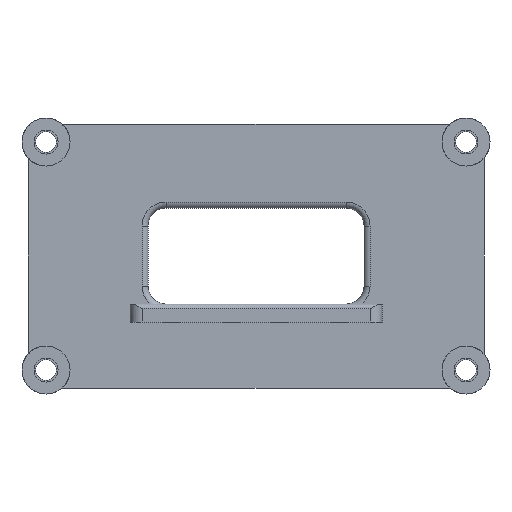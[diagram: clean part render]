
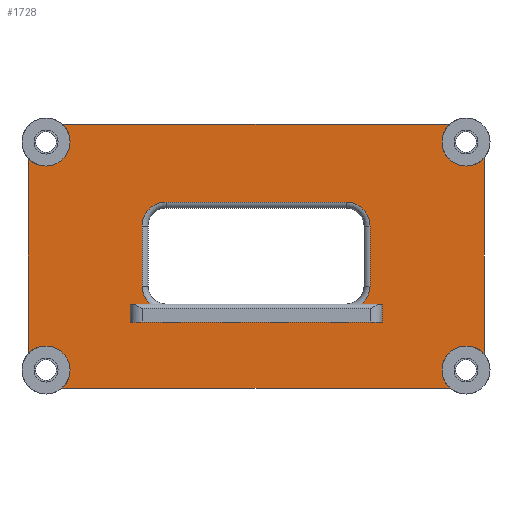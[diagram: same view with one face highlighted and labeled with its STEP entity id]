
A CAD part, front view. The second image highlights one B-rep face of the part: STEP entity #1728.
In plain terms, the highlighted planar face has unit normal (0, -1, 0).
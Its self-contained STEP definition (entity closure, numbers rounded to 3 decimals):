
#31=FACE_BOUND('',#341,.T.);
#82=CIRCLE('',#1876,4.);
#83=CIRCLE('',#1877,4.);
#84=CIRCLE('',#1878,4.);
#85=CIRCLE('',#1879,4.);
#86=CIRCLE('',#1880,4.);
#87=CIRCLE('',#1881,4.);
#88=CIRCLE('',#1882,4.);
#89=CIRCLE('',#1883,4.);
#90=CIRCLE('',#1884,4.);
#91=CIRCLE('',#1885,4.);
#173=PLANE('',#1875);
#235=FACE_OUTER_BOUND('',#340,.T.);
#340=EDGE_LOOP('',(#1366,#1367,#1368,#1369,#1370,#1371,#1372,#1373,#1374,
#1375));
#341=EDGE_LOOP('',(#1376,#1377,#1378,#1379,#1380,#1381,#1382,#1383,#1384,
#1385,#1386,#1387));
#415=LINE('',#2586,#561);
#419=LINE('',#2604,#565);
#489=LINE('',#2814,#635);
#492=LINE('',#2819,#638);
#494=LINE('',#2823,#640);
#495=LINE('',#2831,#641);
#496=LINE('',#2835,#642);
#497=LINE('',#2839,#643);
#498=LINE('',#2844,#644);
#499=LINE('',#2848,#645);
#500=LINE('',#2852,#646);
#501=LINE('',#2856,#647);
#561=VECTOR('',#2013,10.);
#565=VECTOR('',#2017,10.);
#635=VECTOR('',#2227,10.);
#638=VECTOR('',#2232,10.);
#640=VECTOR('',#2238,10.);
#641=VECTOR('',#2245,10.);
#642=VECTOR('',#2248,10.);
#643=VECTOR('',#2251,10.);
#644=VECTOR('',#2256,10.);
#645=VECTOR('',#2259,10.);
#646=VECTOR('',#2262,10.);
#647=VECTOR('',#2265,10.);
#713=VERTEX_POINT('',#2583);
#714=VERTEX_POINT('',#2585);
#719=VERTEX_POINT('',#2598);
#720=VERTEX_POINT('',#2603);
#790=VERTEX_POINT('',#2813);
#791=VERTEX_POINT('',#2817);
#792=VERTEX_POINT('',#2825);
#793=VERTEX_POINT('',#2826);
#794=VERTEX_POINT('',#2828);
#795=VERTEX_POINT('',#2830);
#796=VERTEX_POINT('',#2832);
#797=VERTEX_POINT('',#2834);
#798=VERTEX_POINT('',#2836);
#799=VERTEX_POINT('',#2838);
#800=VERTEX_POINT('',#2840);
#801=VERTEX_POINT('',#2842);
#802=VERTEX_POINT('',#2845);
#803=VERTEX_POINT('',#2847);
#804=VERTEX_POINT('',#2849);
#805=VERTEX_POINT('',#2851);
#806=VERTEX_POINT('',#2853);
#807=VERTEX_POINT('',#2855);
#880=EDGE_CURVE('',#714,#713,#415,.T.);
#886=EDGE_CURVE('',#720,#719,#419,.T.);
#991=EDGE_CURVE('',#790,#720,#489,.T.);
#994=EDGE_CURVE('',#713,#791,#492,.T.);
#996=EDGE_CURVE('',#791,#790,#494,.T.);
#997=EDGE_CURVE('',#792,#793,#82,.T.);
#998=EDGE_CURVE('',#793,#794,#83,.T.);
#999=EDGE_CURVE('',#795,#794,#495,.T.);
#1000=EDGE_CURVE('',#795,#796,#84,.T.);
#1001=EDGE_CURVE('',#797,#796,#496,.T.);
#1002=EDGE_CURVE('',#797,#798,#85,.T.);
#1003=EDGE_CURVE('',#799,#798,#497,.T.);
#1004=EDGE_CURVE('',#799,#800,#86,.T.);
#1005=EDGE_CURVE('',#800,#801,#87,.T.);
#1006=EDGE_CURVE('',#792,#801,#498,.T.);
#1007=EDGE_CURVE('',#802,#719,#88,.T.);
#1008=EDGE_CURVE('',#803,#802,#499,.T.);
#1009=EDGE_CURVE('',#804,#803,#89,.T.);
#1010=EDGE_CURVE('',#805,#804,#500,.T.);
#1011=EDGE_CURVE('',#806,#805,#90,.T.);
#1012=EDGE_CURVE('',#807,#806,#501,.T.);
#1013=EDGE_CURVE('',#714,#807,#91,.T.);
#1366=ORIENTED_EDGE('',*,*,#997,.T.);
#1367=ORIENTED_EDGE('',*,*,#998,.T.);
#1368=ORIENTED_EDGE('',*,*,#999,.F.);
#1369=ORIENTED_EDGE('',*,*,#1000,.T.);
#1370=ORIENTED_EDGE('',*,*,#1001,.F.);
#1371=ORIENTED_EDGE('',*,*,#1002,.T.);
#1372=ORIENTED_EDGE('',*,*,#1003,.F.);
#1373=ORIENTED_EDGE('',*,*,#1004,.T.);
#1374=ORIENTED_EDGE('',*,*,#1005,.T.);
#1375=ORIENTED_EDGE('',*,*,#1006,.F.);
#1376=ORIENTED_EDGE('',*,*,#880,.T.);
#1377=ORIENTED_EDGE('',*,*,#994,.T.);
#1378=ORIENTED_EDGE('',*,*,#996,.T.);
#1379=ORIENTED_EDGE('',*,*,#991,.T.);
#1380=ORIENTED_EDGE('',*,*,#886,.T.);
#1381=ORIENTED_EDGE('',*,*,#1007,.F.);
#1382=ORIENTED_EDGE('',*,*,#1008,.F.);
#1383=ORIENTED_EDGE('',*,*,#1009,.F.);
#1384=ORIENTED_EDGE('',*,*,#1010,.F.);
#1385=ORIENTED_EDGE('',*,*,#1011,.F.);
#1386=ORIENTED_EDGE('',*,*,#1012,.F.);
#1387=ORIENTED_EDGE('',*,*,#1013,.F.);
#1728=ADVANCED_FACE('',(#235,#31),#173,.F.);
#1875=AXIS2_PLACEMENT_3D('',#2824,#2239,#2240);
#1876=AXIS2_PLACEMENT_3D('',#2827,#2241,#2242);
#1877=AXIS2_PLACEMENT_3D('',#2829,#2243,#2244);
#1878=AXIS2_PLACEMENT_3D('',#2833,#2246,#2247);
#1879=AXIS2_PLACEMENT_3D('',#2837,#2249,#2250);
#1880=AXIS2_PLACEMENT_3D('',#2841,#2252,#2253);
#1881=AXIS2_PLACEMENT_3D('',#2843,#2254,#2255);
#1882=AXIS2_PLACEMENT_3D('',#2846,#2257,#2258);
#1883=AXIS2_PLACEMENT_3D('',#2850,#2260,#2261);
#1884=AXIS2_PLACEMENT_3D('',#2854,#2263,#2264);
#1885=AXIS2_PLACEMENT_3D('',#2857,#2266,#2267);
#2013=DIRECTION('',(1.,0.,0.));
#2017=DIRECTION('',(1.,0.,0.));
#2227=DIRECTION('',(0.,0.,1.));
#2232=DIRECTION('',(0.,0.,-1.));
#2238=DIRECTION('',(-1.,0.,0.));
#2239=DIRECTION('center_axis',(0.,1.,0.));
#2240=DIRECTION('ref_axis',(1.,0.,0.));
#2241=DIRECTION('center_axis',(0.,1.,0.));
#2242=DIRECTION('ref_axis',(1.,0.,0.));
#2243=DIRECTION('center_axis',(0.,1.,0.));
#2244=DIRECTION('ref_axis',(1.,0.,0.));
#2245=DIRECTION('',(1.,0.,0.));
#2246=DIRECTION('center_axis',(0.,1.,0.));
#2247=DIRECTION('ref_axis',(1.,0.,0.));
#2248=DIRECTION('',(0.,0.,1.));
#2249=DIRECTION('center_axis',(0.,1.,0.));
#2250=DIRECTION('ref_axis',(1.,0.,0.));
#2251=DIRECTION('',(-1.,0.,0.));
#2252=DIRECTION('center_axis',(0.,1.,0.));
#2253=DIRECTION('ref_axis',(1.,0.,0.));
#2254=DIRECTION('center_axis',(0.,1.,0.));
#2255=DIRECTION('ref_axis',(1.,0.,0.));
#2256=DIRECTION('',(0.,0.,-1.));
#2257=DIRECTION('center_axis',(0.,-1.,0.));
#2258=DIRECTION('ref_axis',(-0.707,0.,-0.707));
#2259=DIRECTION('',(0.,0.,-1.));
#2260=DIRECTION('center_axis',(0.,-1.,0.));
#2261=DIRECTION('ref_axis',(-0.707,0.,0.707));
#2262=DIRECTION('',(-1.,0.,0.));
#2263=DIRECTION('center_axis',(0.,-1.,0.));
#2264=DIRECTION('ref_axis',(0.707,0.,0.707));
#2265=DIRECTION('',(0.,0.,1.));
#2266=DIRECTION('center_axis',(0.,-1.,0.));
#2267=DIRECTION('ref_axis',(0.707,0.,-0.707));
#2583=CARTESIAN_POINT('',(68.,100.,26.));
#2585=CARTESIAN_POINT('',(64.646,100.,26.));
#2586=CARTESIAN_POINT('',(47.,100.,26.));
#2598=CARTESIAN_POINT('',(29.354,100.,26.));
#2603=CARTESIAN_POINT('',(26.,100.,26.));
#2604=CARTESIAN_POINT('',(47.,100.,26.));
#2813=CARTESIAN_POINT('',(26.,100.,23.));
#2814=CARTESIAN_POINT('',(26.,100.,28.5));
#2817=CARTESIAN_POINT('',(68.,100.,23.));
#2819=CARTESIAN_POINT('',(68.,100.,28.5));
#2823=CARTESIAN_POINT('',(47.,100.,23.));
#2824=CARTESIAN_POINT('Origin',(47.,100.,34.));
#2825=CARTESIAN_POINT('',(85.,100.,50.354));
#2826=CARTESIAN_POINT('',(78.,100.,53.));
#2827=CARTESIAN_POINT('Origin',(82.,100.,53.));
#2828=CARTESIAN_POINT('',(79.354,100.,56.));
#2829=CARTESIAN_POINT('Origin',(82.,100.,53.));
#2830=CARTESIAN_POINT('',(14.646,100.,56.));
#2831=CARTESIAN_POINT('',(9.,100.,56.));
#2832=CARTESIAN_POINT('',(9.,100.,50.354));
#2833=CARTESIAN_POINT('Origin',(12.,100.,53.));
#2834=CARTESIAN_POINT('',(9.,100.,17.646));
#2835=CARTESIAN_POINT('',(9.,100.,12.));
#2836=CARTESIAN_POINT('',(14.646,100.,12.));
#2837=CARTESIAN_POINT('Origin',(12.,100.,15.));
#2838=CARTESIAN_POINT('',(79.354,100.,12.));
#2839=CARTESIAN_POINT('',(85.,100.,12.));
#2840=CARTESIAN_POINT('',(78.,100.,15.));
#2841=CARTESIAN_POINT('Origin',(82.,100.,15.));
#2842=CARTESIAN_POINT('',(85.,100.,17.646));
#2843=CARTESIAN_POINT('Origin',(82.,100.,15.));
#2844=CARTESIAN_POINT('',(85.,100.,56.));
#2845=CARTESIAN_POINT('',(28.,100.,29.));
#2846=CARTESIAN_POINT('Origin',(32.,100.,29.));
#2847=CARTESIAN_POINT('',(28.,100.,39.));
#2848=CARTESIAN_POINT('',(28.,100.,30.));
#2849=CARTESIAN_POINT('',(32.,100.,43.));
#2850=CARTESIAN_POINT('Origin',(32.,100.,39.));
#2851=CARTESIAN_POINT('',(62.,100.,43.));
#2852=CARTESIAN_POINT('',(38.,100.,43.));
#2853=CARTESIAN_POINT('',(66.,100.,39.));
#2854=CARTESIAN_POINT('Origin',(62.,100.,39.));
#2855=CARTESIAN_POINT('',(66.,100.,29.));
#2856=CARTESIAN_POINT('',(66.,100.,38.));
#2857=CARTESIAN_POINT('Origin',(62.,100.,29.));
